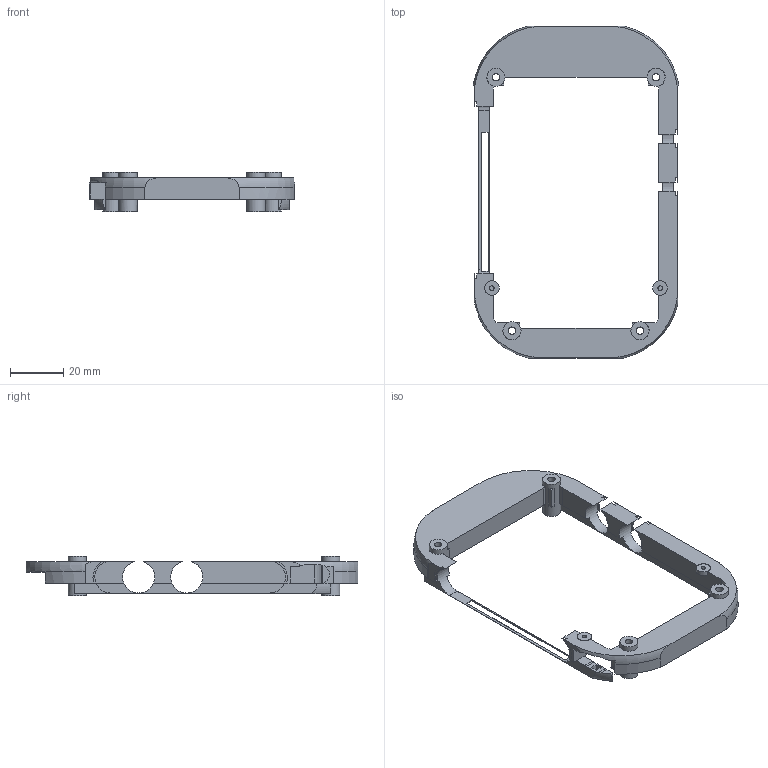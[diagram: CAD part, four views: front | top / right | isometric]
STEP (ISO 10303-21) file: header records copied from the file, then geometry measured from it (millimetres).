
FILE_DESCRIPTION(('Open CASCADE Model'),'2;1');
FILE_NAME('Open CASCADE Shape Model','2026-09-08T13:32:06',('Author'),( 'Open CASCADE'),'Open CASCADE STEP processor 7.7','Open CASCADE 7.7' ,'Unknown');
FILE_SCHEMA(('AUTOMOTIVE_DESIGN { 1 0 10303 214 1 1 1 1 }'));
Length unit declared in the file: millimetre
Products named in the file (1): Open CASCADE STEP translator 7.7 15
Bounding box: 77 x 124.4 x 14.7 mm (x, y, z)
Volume: 18614.9 mm3; surface area: 12218.6 mm2
Topology: 1 solids, 1 shells, 153 faces, 462 edges, 307 vertices
Faces by surface type: plane 103, cylinder 44, torus 6
Full cylindrical faces by diameter (mm): 1.7 x2, 2.8 x4, 5.4 x2, 6.8 x4
Entity records: 12227 total; most frequent: CARTESIAN_POINT 3292, DIRECTION 1627, ORIENTED_EDGE 924, LINE 924, VECTOR 924, PCURVE 924, DEFINITIONAL_REPRESENTATION 924, EDGE_CURVE 462
